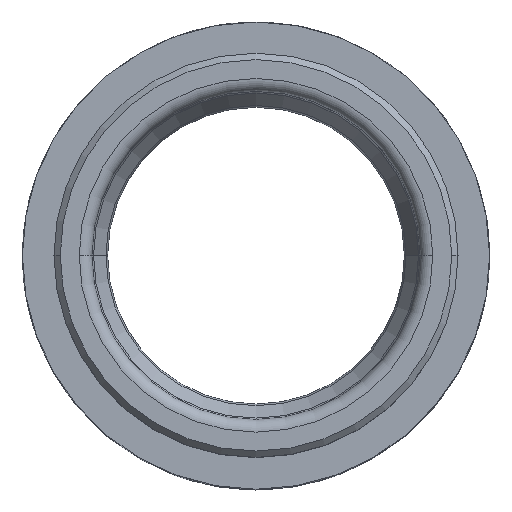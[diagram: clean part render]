
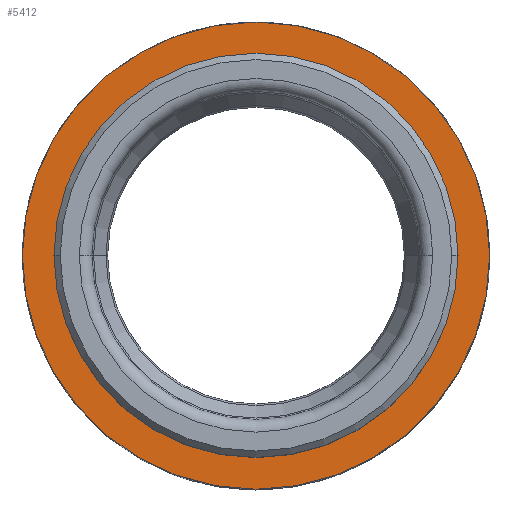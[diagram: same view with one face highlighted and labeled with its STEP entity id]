
A CAD part, top view. The second image highlights one B-rep face of the part: STEP entity #5412.
In plain terms, the highlighted planar face has unit normal (0, 0, 1).
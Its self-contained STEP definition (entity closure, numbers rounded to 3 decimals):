
#585 = CARTESIAN_POINT ( 'NONE',  ( 0., 0., 0. ) ) ;
#603 = DIRECTION ( 'NONE',  ( -1., 0., 0. ) ) ;
#604 = DIRECTION ( 'NONE',  ( 0., 0., -1. ) ) ;
#625 = FACE_OUTER_BOUND ( 'NONE', #5271, .T. ) ;
#627 = PLANE ( 'NONE',  #733 ) ;
#725 = FACE_BOUND ( 'NONE', #5219, .T. ) ;
#733 = AXIS2_PLACEMENT_3D ( 'NONE', #585, #604, #603 ) ;
#2461 = DIRECTION ( 'NONE',  ( 1., 0., 0. ) ) ;
#2462 = DIRECTION ( 'NONE',  ( 0., 0., 1. ) ) ;
#2463 = CARTESIAN_POINT ( 'NONE',  ( 0., 0., 0. ) ) ;
#2469 = AXIS2_PLACEMENT_3D ( 'NONE', #2463, #2462, #2461 ) ;
#2484 = CARTESIAN_POINT ( 'NONE',  ( 15.25, 0., 0. ) ) ;
#2530 = CARTESIAN_POINT ( 'NONE',  ( -15.25, 0., 0. ) ) ;
#2539 = CIRCLE ( 'NONE', #2469, 15.25 ) ;
#2655 = CARTESIAN_POINT ( 'NONE',  ( 18.5, 0., 0. ) ) ;
#2666 = CARTESIAN_POINT ( 'NONE',  ( -18.5, 0., 0. ) ) ;
#2729 = DIRECTION ( 'NONE',  ( -1., 0., 0. ) ) ;
#2734 = CARTESIAN_POINT ( 'NONE',  ( 0., 0., 0. ) ) ;
#2735 = AXIS2_PLACEMENT_3D ( 'NONE', #2734, #2749, #2729 ) ;
#2749 = DIRECTION ( 'NONE',  ( 0., 0., -1. ) ) ;
#2879 = CIRCLE ( 'NONE', #2735, 18.5 ) ;
#2912 = CIRCLE ( 'NONE', #3099, 18.5 ) ;
#2919 = DIRECTION ( 'NONE',  ( 0., 0., -1. ) ) ;
#2923 = CARTESIAN_POINT ( 'NONE',  ( 0., 0., 0. ) ) ;
#2969 = DIRECTION ( 'NONE',  ( -1., 0., 0. ) ) ;
#2983 = DIRECTION ( 'NONE',  ( 1., 0., 0. ) ) ;
#2985 = AXIS2_PLACEMENT_3D ( 'NONE', #3096, #3095, #2983 ) ;
#3013 = CIRCLE ( 'NONE', #2985, 15.25 ) ;
#3095 = DIRECTION ( 'NONE',  ( 0., 0., 1. ) ) ;
#3096 = CARTESIAN_POINT ( 'NONE',  ( 0., 0., 0. ) ) ;
#3099 = AXIS2_PLACEMENT_3D ( 'NONE', #2923, #2919, #2969 ) ;
#4627 = VERTEX_POINT ( 'NONE', #2484 ) ;
#4640 = VERTEX_POINT ( 'NONE', #2530 ) ;
#4728 = EDGE_CURVE ( 'NONE', #4627, #4640, #2539, .T. ) ;
#4958 = VERTEX_POINT ( 'NONE', #2655 ) ;
#4959 = VERTEX_POINT ( 'NONE', #2666 ) ;
#5031 = EDGE_CURVE ( 'NONE', #4959, #4958, #2879, .T. ) ;
#5092 = ORIENTED_EDGE ( 'NONE', *, *, #5177, .F. ) ;
#5156 = EDGE_CURVE ( 'NONE', #4640, #4627, #3013, .T. ) ;
#5177 = EDGE_CURVE ( 'NONE', #4958, #4959, #2912, .T. ) ;
#5219 = EDGE_LOOP ( 'NONE', ( #5262, #5261 ) ) ;
#5261 = ORIENTED_EDGE ( 'NONE', *, *, #5156, .F. ) ;
#5262 = ORIENTED_EDGE ( 'NONE', *, *, #4728, .F. ) ;
#5263 = ORIENTED_EDGE ( 'NONE', *, *, #5031, .F. ) ;
#5271 = EDGE_LOOP ( 'NONE', ( #5092, #5263 ) ) ;
#5412 = ADVANCED_FACE ( 'NONE', ( #625, #725 ), #627, .F. ) ;
